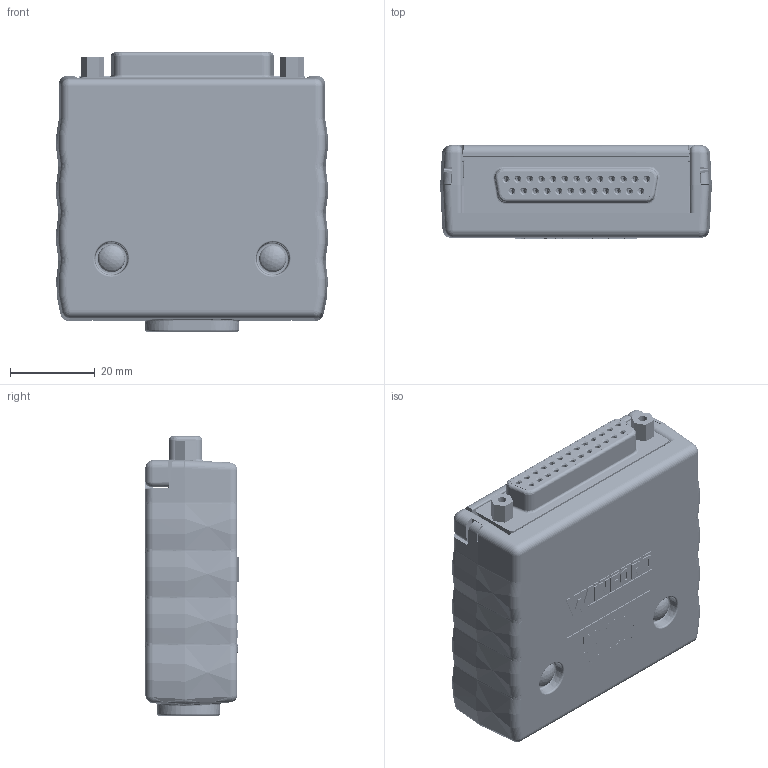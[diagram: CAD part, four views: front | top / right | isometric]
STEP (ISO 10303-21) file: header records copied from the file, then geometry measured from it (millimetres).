
FILE_DESCRIPTION (( 'STEP AP214' ), '1' );
FILE_NAME ('brkead25f-r_rev_a.stp', '2022-01-11T23:47:58', ( '' ), ( '' ), 'SwSTEP 2.0', 'SolidWorks 2017', '' );
FILE_SCHEMA (( 'AUTOMOTIVE_DESIGN' ));
Length unit declared in the file: inch
Products named in the file (12): ECB25A1 Base; Enclosure #4-40 Insert_92395A112; BRKEAD25F-R Label; Enclosure_Screw Ph 4-40 x .625_90272A112; 3.5 x 5 Nylon 6 Snap Rivet; ECB25A1 Cover; Screw Terminal 2 Pos; Screw Terminal 3 Pos; Female Right Angle 25 Pin; BRKEAD25F Assembly_brkead25f-r; BRKEAD25F Board; brkead25f-r_rev_a
Assembly tree (22 placements, depth 3):
  brkead25f-r_rev_a
    ECB25A1 Base
    ECB25A1 Cover
    3.5 x 5 Nylon 6 Snap Rivet  x2
    Enclosure_Screw Ph 4-40 x .625_90272A112  x2
    Enclosure #4-40 Insert_92395A112  x2
    BRKEAD25F Assembly_brkead25f-r
      BRKEAD25F Board
      Female Right Angle 25 Pin
      Screw Terminal 2 Pos  x4
      Screw Terminal 3 Pos  x6
    BRKEAD25F-R Label
Bounding box: 64.15 x 22 x 65.91 mm (x, y, z)
Volume: 31753.2 mm3; surface area: 51303.9 mm2
Topology: 349 solids, 387 shells, 15239 faces, 36789 edges, 22568 vertices
Faces by surface type: plane 6486, bspline 5273, cylinder 2809, cone 328, torus 175, sphere 168
Entity records: 631868 total; most frequent: CARTESIAN_POINT 278492, ORIENTED_EDGE 56114, DIRECTION 40037, EDGE_CURVE 28063, VERTEX_POINT 17221, VECTOR 15723, LINE 15723, EDGE_LOOP 12274
